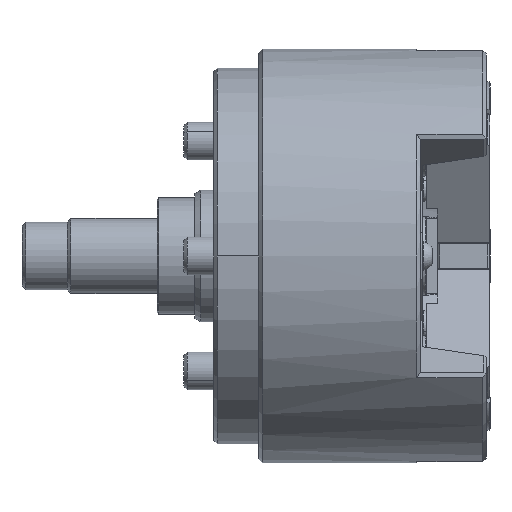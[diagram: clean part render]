
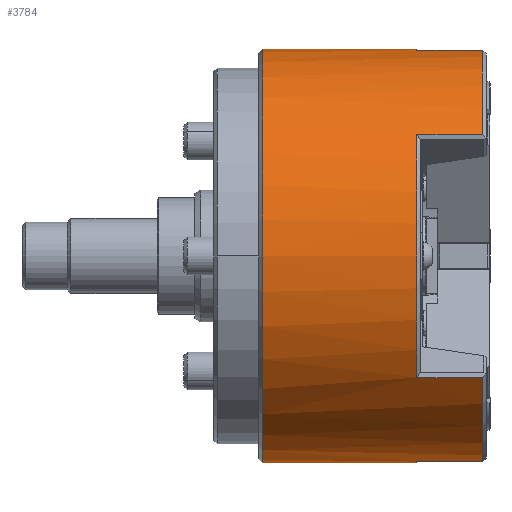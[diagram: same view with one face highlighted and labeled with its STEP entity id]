
A CAD part, front view. The second image highlights one B-rep face of the part: STEP entity #3784.
In plain terms, the highlighted cylindrical face has radius 55 mm (diameter 110 mm), a partial arc.
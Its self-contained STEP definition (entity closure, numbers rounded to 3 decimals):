
#56 = CARTESIAN_POINT ( 'NONE',  ( -0.473, 0., 55. ) ) ;
#159 = DIRECTION ( 'NONE',  ( 0., 0., 1. ) ) ;
#235 = CARTESIAN_POINT ( 'NONE',  ( -0.473, 0., 0. ) ) ;
#409 = VECTOR ( 'NONE', #26168, 1000. ) ;
#473 = EDGE_CURVE ( 'NONE', #6040, #20482, #26095, .T. ) ;
#543 = LINE ( 'NONE', #23003, #409 ) ;
#1097 = CARTESIAN_POINT ( 'NONE',  ( -0.473, -5.78, -54.695 ) ) ;
#1187 = CARTESIAN_POINT ( 'NONE',  ( 17., -44.478, -32.353 ) ) ;
#1630 = AXIS2_PLACEMENT_3D ( 'NONE', #13724, #13763, #19608 ) ;
#2538 = EDGE_CURVE ( 'NONE', #30857, #3189, #15605, .T. ) ;
#3189 = VERTEX_POINT ( 'NONE', #27060 ) ;
#3456 = CARTESIAN_POINT ( 'NONE',  ( -0.473, -5.78, 54.695 ) ) ;
#3520 = CARTESIAN_POINT ( 'NONE',  ( 17., -5.78, -54.695 ) ) ;
#3577 = DIRECTION ( 'NONE',  ( 0., 0., -1. ) ) ;
#3784 = ADVANCED_FACE ( 'NONE', ( #10115 ), #9795, .T. ) ;
#4075 = AXIS2_PLACEMENT_3D ( 'NONE', #18071, #26421, #11005 ) ;
#4083 = EDGE_CURVE ( 'NONE', #3189, #26418, #8853, .T. ) ;
#4142 = CARTESIAN_POINT ( 'NONE',  ( 63.843, 0., -55. ) ) ;
#4213 = DIRECTION ( 'NONE',  ( 1., 0., 0. ) ) ;
#4289 = CIRCLE ( 'NONE', #26061, 55. ) ;
#4328 = VERTEX_POINT ( 'NONE', #1187 ) ;
#4576 = CARTESIAN_POINT ( 'NONE',  ( 63.843, -5.78, -54.695 ) ) ;
#5615 = EDGE_CURVE ( 'NONE', #30054, #8973, #543, .T. ) ;
#6040 = VERTEX_POINT ( 'NONE', #11218 ) ;
#6410 = EDGE_CURVE ( 'NONE', #6040, #30857, #27484, .T. ) ;
#7040 = AXIS2_PLACEMENT_3D ( 'NONE', #18836, #18801, #18966 ) ;
#7413 = CIRCLE ( 'NONE', #1630, 55. ) ;
#8598 = CIRCLE ( 'NONE', #7040, 55. ) ;
#8853 = CIRCLE ( 'NONE', #23814, 55. ) ;
#8973 = VERTEX_POINT ( 'NONE', #3456 ) ;
#9645 = DIRECTION ( 'NONE',  ( 1., 0., 0. ) ) ;
#9795 = CYLINDRICAL_SURFACE ( 'NONE', #4075, 55. ) ;
#9839 = VERTEX_POINT ( 'NONE', #3520 ) ;
#10038 = CARTESIAN_POINT ( 'NONE',  ( -0.473, -44.478, -32.353 ) ) ;
#10115 = FACE_OUTER_BOUND ( 'NONE', #16544, .T. ) ;
#11005 = DIRECTION ( 'NONE',  ( 0., 0., -1. ) ) ;
#11047 = DIRECTION ( 'NONE',  ( 1., 0., 0. ) ) ;
#11157 = ORIENTED_EDGE ( 'NONE', *, *, #473, .F. ) ;
#11189 = ORIENTED_EDGE ( 'NONE', *, *, #6410, .T. ) ;
#11218 = CARTESIAN_POINT ( 'NONE',  ( -41.5, 0., 55. ) ) ;
#11663 = ORIENTED_EDGE ( 'NONE', *, *, #2538, .T. ) ;
#11764 = VERTEX_POINT ( 'NONE', #10038 ) ;
#11822 = VECTOR ( 'NONE', #11047, 1000. ) ;
#11875 = CARTESIAN_POINT ( 'NONE',  ( -41.5, 0., -55. ) ) ;
#11911 = ORIENTED_EDGE ( 'NONE', *, *, #4083, .T. ) ;
#11925 = VECTOR ( 'NONE', #27802, 1000. ) ;
#11972 = ORIENTED_EDGE ( 'NONE', *, *, #17803, .T. ) ;
#12034 = LINE ( 'NONE', #28435, #11925 ) ;
#12151 = LINE ( 'NONE', #12384, #11822 ) ;
#12384 = CARTESIAN_POINT ( 'NONE',  ( 63.843, -44.478, 32.353 ) ) ;
#13120 = ORIENTED_EDGE ( 'NONE', *, *, #15787, .F. ) ;
#13146 = ORIENTED_EDGE ( 'NONE', *, *, #13970, .T. ) ;
#13724 = CARTESIAN_POINT ( 'NONE',  ( 17., 0., 0. ) ) ;
#13763 = DIRECTION ( 'NONE',  ( 1., 0., 0. ) ) ;
#13970 = EDGE_CURVE ( 'NONE', #4328, #11764, #12034, .T. ) ;
#14503 = DIRECTION ( 'NONE',  ( 1., 0., 0. ) ) ;
#14630 = ORIENTED_EDGE ( 'NONE', *, *, #20757, .T. ) ;
#14742 = DIRECTION ( 'NONE',  ( -1., 0., 0. ) ) ;
#14946 = CARTESIAN_POINT ( 'NONE',  ( 17., -44.478, 32.353 ) ) ;
#14971 = ORIENTED_EDGE ( 'NONE', *, *, #29838, .T. ) ;
#15574 = VECTOR ( 'NONE', #14503, 1000. ) ;
#15605 = LINE ( 'NONE', #4142, #15574 ) ;
#15687 = ORIENTED_EDGE ( 'NONE', *, *, #23630, .F. ) ;
#15719 = ORIENTED_EDGE ( 'NONE', *, *, #5615, .T. ) ;
#15787 = EDGE_CURVE ( 'NONE', #4328, #9839, #4289, .T. ) ;
#16262 = ORIENTED_EDGE ( 'NONE', *, *, #23241, .T. ) ;
#16544 = EDGE_LOOP ( 'NONE', ( #11157, #11189, #11663, #11911, #11972, #13120, #13146, #14630, #14971, #15687, #15719, #16262 ) ) ;
#16785 = DIRECTION ( 'NONE',  ( 0., 0., -1. ) ) ;
#16797 = DIRECTION ( 'NONE',  ( 1., 0., 0. ) ) ;
#16825 = CARTESIAN_POINT ( 'NONE',  ( 17., 0., 0. ) ) ;
#16992 = CIRCLE ( 'NONE', #23482, 55. ) ;
#17155 = DIRECTION ( 'NONE',  ( -1., 0., 0. ) ) ;
#17803 = EDGE_CURVE ( 'NONE', #26418, #9839, #26995, .T. ) ;
#17953 = VERTEX_POINT ( 'NONE', #31177 ) ;
#18071 = CARTESIAN_POINT ( 'NONE',  ( 63.843, 0., 0. ) ) ;
#18801 = DIRECTION ( 'NONE',  ( -1., 0., 0. ) ) ;
#18836 = CARTESIAN_POINT ( 'NONE',  ( -0.473, 0., 0. ) ) ;
#18966 = DIRECTION ( 'NONE',  ( 0., 0., 1. ) ) ;
#19461 = AXIS2_PLACEMENT_3D ( 'NONE', #29406, #9645, #3577 ) ;
#19608 = DIRECTION ( 'NONE',  ( 0., 0., -1. ) ) ;
#20315 = CARTESIAN_POINT ( 'NONE',  ( -0.473, 0., 0. ) ) ;
#20433 = VERTEX_POINT ( 'NONE', #14946 ) ;
#20482 = VERTEX_POINT ( 'NONE', #56 ) ;
#20757 = EDGE_CURVE ( 'NONE', #11764, #17953, #16992, .T. ) ;
#22876 = DIRECTION ( 'NONE',  ( 0., 0., 1. ) ) ;
#23003 = CARTESIAN_POINT ( 'NONE',  ( 63.843, -5.78, 54.695 ) ) ;
#23241 = EDGE_CURVE ( 'NONE', #8973, #20482, #8598, .T. ) ;
#23482 = AXIS2_PLACEMENT_3D ( 'NONE', #235, #17155, #159 ) ;
#23630 = EDGE_CURVE ( 'NONE', #30054, #20433, #7413, .T. ) ;
#23814 = AXIS2_PLACEMENT_3D ( 'NONE', #20315, #14742, #22876 ) ;
#25483 = DIRECTION ( 'NONE',  ( 1., 0., 0. ) ) ;
#25851 = VECTOR ( 'NONE', #25483, 1000. ) ;
#26061 = AXIS2_PLACEMENT_3D ( 'NONE', #16825, #16797, #16785 ) ;
#26095 = LINE ( 'NONE', #30737, #25851 ) ;
#26168 = DIRECTION ( 'NONE',  ( -1., 0., 0. ) ) ;
#26418 = VERTEX_POINT ( 'NONE', #1097 ) ;
#26421 = DIRECTION ( 'NONE',  ( 1., 0., 0. ) ) ;
#26934 = VECTOR ( 'NONE', #4213, 1000. ) ;
#26995 = LINE ( 'NONE', #4576, #26934 ) ;
#27060 = CARTESIAN_POINT ( 'NONE',  ( -0.473, 0., -55. ) ) ;
#27484 = CIRCLE ( 'NONE', #19461, 55. ) ;
#27802 = DIRECTION ( 'NONE',  ( -1., 0., 0. ) ) ;
#28435 = CARTESIAN_POINT ( 'NONE',  ( 63.843, -44.478, -32.353 ) ) ;
#29406 = CARTESIAN_POINT ( 'NONE',  ( -41.5, 0., 0. ) ) ;
#29475 = CARTESIAN_POINT ( 'NONE',  ( 17., -5.78, 54.695 ) ) ;
#29838 = EDGE_CURVE ( 'NONE', #17953, #20433, #12151, .T. ) ;
#30054 = VERTEX_POINT ( 'NONE', #29475 ) ;
#30737 = CARTESIAN_POINT ( 'NONE',  ( 63.843, 0., 55. ) ) ;
#30857 = VERTEX_POINT ( 'NONE', #11875 ) ;
#31177 = CARTESIAN_POINT ( 'NONE',  ( -0.473, -44.478, 32.353 ) ) ;
